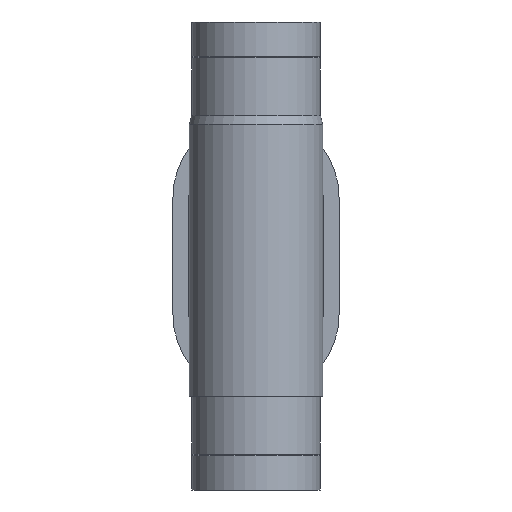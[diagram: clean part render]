
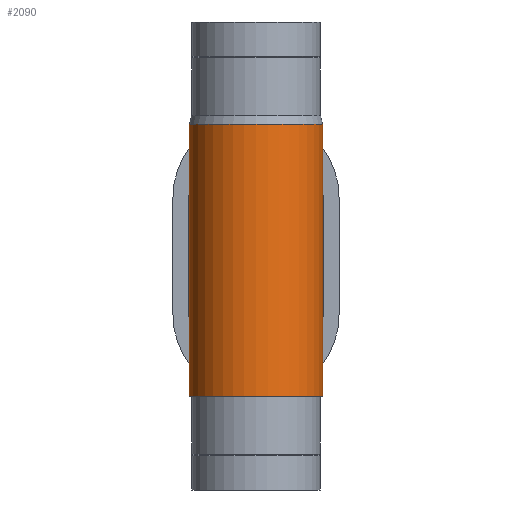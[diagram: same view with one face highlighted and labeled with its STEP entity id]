
A CAD part, front view. The second image highlights one B-rep face of the part: STEP entity #2090.
In plain terms, the highlighted cylindrical face has radius 57 mm (diameter 114 mm), a full revolution.
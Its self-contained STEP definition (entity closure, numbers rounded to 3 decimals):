
#51=FACE_BOUND($,#340,.T.);
#52=FACE_BOUND($,#341,.T.);
#94=ELLIPSE($,#2235,80.61,57.);
#95=ELLIPSE($,#2239,80.61,57.);
#101=CYLINDRICAL_SURFACE($,#2236,57.);
#221=FACE_OUTER_BOUND($,#339,.T.);
#339=EDGE_LOOP($,(#1503));
#340=EDGE_LOOP($,(#1504));
#341=EDGE_LOOP($,(#1505,#1506,#1507,#1508));
#495=CIRCLE($,#2237,57.);
#496=CIRCLE($,#2238,57.);
#603=LINE($,#3171,#787);
#604=LINE($,#3173,#788);
#787=VECTOR($,#2521,100.);
#788=VECTOR($,#2522,100.);
#976=VERTEX_POINT($,#3160);
#977=VERTEX_POINT($,#3162);
#978=VERTEX_POINT($,#3166);
#979=VERTEX_POINT($,#3168);
#980=VERTEX_POINT($,#3170);
#981=VERTEX_POINT($,#3172);
#1185=EDGE_CURVE($,#977,#976,#94,.T.);
#1187=EDGE_CURVE($,#978,#978,#495,.T.);
#1188=EDGE_CURVE($,#979,#979,#496,.T.);
#1189=EDGE_CURVE($,#977,#980,#603,.T.);
#1190=EDGE_CURVE($,#976,#981,#604,.T.);
#1191=EDGE_CURVE($,#981,#980,#95,.T.);
#1503=ORIENTED_EDGE($,*,*,#1187,.F.);
#1504=ORIENTED_EDGE($,*,*,#1188,.F.);
#1505=ORIENTED_EDGE($,*,*,#1189,.F.);
#1506=ORIENTED_EDGE($,*,*,#1185,.T.);
#1507=ORIENTED_EDGE($,*,*,#1190,.T.);
#1508=ORIENTED_EDGE($,*,*,#1191,.T.);
#2090=ADVANCED_FACE($,(#221,#51,#52),#101,.T.);
#2235=AXIS2_PLACEMENT_3D($,#3163,#2512,#2513);
#2236=AXIS2_PLACEMENT_3D($,#3165,#2515,#2516);
#2237=AXIS2_PLACEMENT_3D($,#3167,#2517,#2518);
#2238=AXIS2_PLACEMENT_3D($,#3169,#2519,#2520);
#2239=AXIS2_PLACEMENT_3D($,#3174,#2523,#2524);
#2512=DIRECTION('center_axis',(0.,-0.707,-0.707));
#2513=DIRECTION('ref_axis',(0.,-0.707,0.707));
#2515=DIRECTION('center_axis',(0.,0.,1.));
#2516=DIRECTION('ref_axis',(-1.,0.,0.));
#2517=DIRECTION('center_axis',(0.,0.,-1.));
#2518=DIRECTION('ref_axis',(-1.,0.,0.));
#2519=DIRECTION('center_axis',(0.,0.,1.));
#2520=DIRECTION('ref_axis',(-1.,0.,0.));
#2521=DIRECTION($,(0.,0.,1.));
#2522=DIRECTION($,(0.,0.,1.));
#2523=DIRECTION('center_axis',(0.,-0.707,0.707));
#2524=DIRECTION('ref_axis',(0.,-0.707,-0.707));
#3160=CARTESIAN_POINT('',(57.,0.,-50.));
#3162=CARTESIAN_POINT('',(-57.,0.,-50.));
#3163=CARTESIAN_POINT('Origin',(0.,0.,-50.));
#3165=CARTESIAN_POINT('Origin',(0.,0.,0.));
#3166=CARTESIAN_POINT('',(57.,0.,-120.));
#3167=CARTESIAN_POINT('Origin',(0.,0.,-120.));
#3168=CARTESIAN_POINT('',(57.,0.,112.536));
#3169=CARTESIAN_POINT('Origin',(0.,0.,112.536));
#3170=CARTESIAN_POINT('',(-57.,0.,50.));
#3171=CARTESIAN_POINT($,(-57.,0.,0.));
#3172=CARTESIAN_POINT('',(57.,0.,50.));
#3173=CARTESIAN_POINT($,(57.,0.,0.));
#3174=CARTESIAN_POINT('Origin',(0.,0.,50.));
